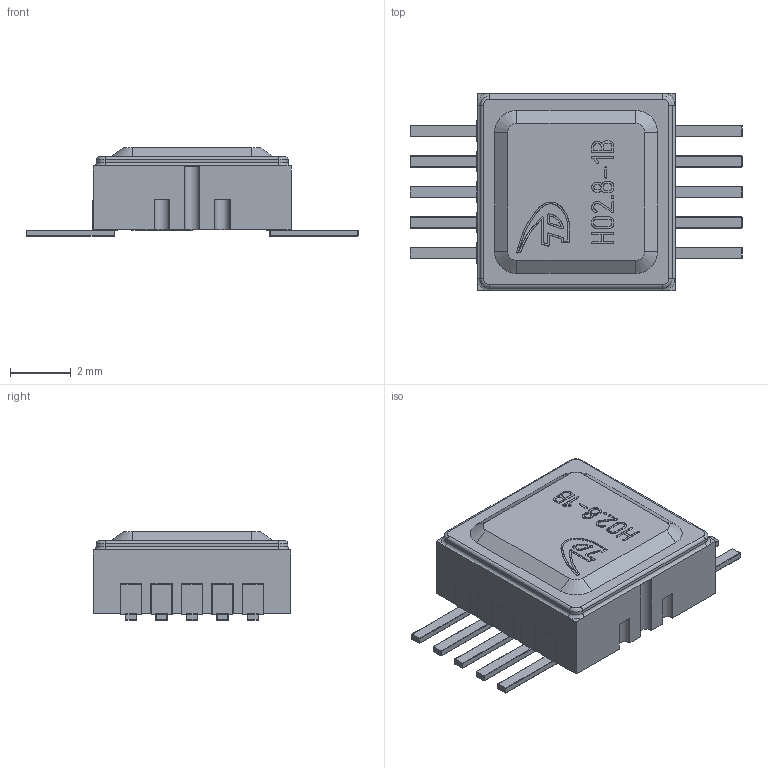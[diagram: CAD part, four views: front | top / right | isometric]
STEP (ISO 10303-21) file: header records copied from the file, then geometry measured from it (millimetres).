
FILE_DESCRIPTION(('STEP AP242'), '1');
FILE_NAME('Í02.8-1Â', '', ('UNSPECIFIED'), ('UNSPECIFIED'), 'C3D Converter', 'C3D Toolkit', '');
FILE_SCHEMA(('AP242_MANAGED_MODEL_BASED_3D_ENGINEERING_MIM_LF { 1 0 10303 442 1 1 4 }'));
Length unit declared in the file: millimetre
Bounding box: 10.91 x 6.5 x 2.91 mm (x, y, z)
Volume: 109.3 mm3; surface area: 178.1 mm2
Topology: 1 solids, 1 shells, 676 faces, 1701 edges, 986 vertices
Faces by surface type: cylinder 233, plane 183, extrusion 148, sphere 60, torus 48, cone 4
Entity records: 27581 total; most frequent: CARTESIAN_POINT 6968, ORIENTED_EDGE 3280, DIRECTION 2857, EDGE_CURVE 1640, VECTOR 1015, VERTEX_POINT 986, AXIS2_PLACEMENT_3D 921, LINE 867
